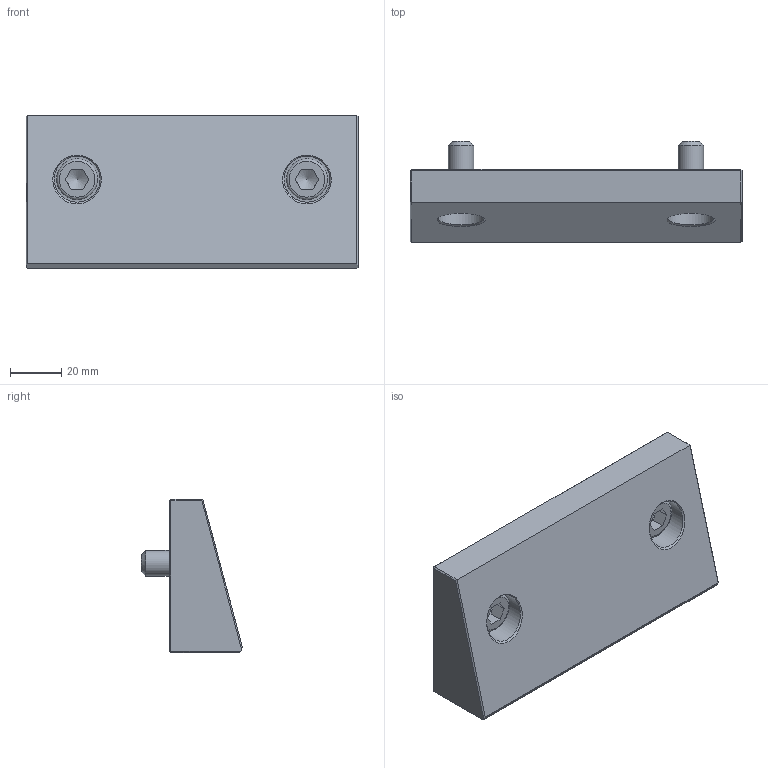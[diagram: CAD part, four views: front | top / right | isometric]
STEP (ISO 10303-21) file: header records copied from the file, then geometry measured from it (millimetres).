
FILE_DESCRIPTION(('STEP AP214'), '1');
FILE_NAME('BB.VS.130.70.030', '', ('UNSPECIFIED'), ('UNSPECIFIED'), 'C3D Converter', 'C3D Toolkit', '');
FILE_SCHEMA(('AUTOMOTIVE_DESIGN { 1 0 10303 214 3 1 1}'));
Length unit declared in the file: millimetre
Products named in the file (1): BB.VS.130.70.030 СБ
Bounding box: 130 x 39.56 x 60 mm (x, y, z)
Volume: 161132.2 mm3; surface area: 27700.4 mm2
Topology: 1 solids, 1 shells, 63 faces, 135 edges, 82 vertices
Faces by surface type: plane 41, cone 8, cylinder 8, torus 4, bspline 2
Full cylindrical faces by diameter (mm): 10 x2, 11 x2, 16 x2, 18 x2
Entity records: 3285 total; most frequent: CARTESIAN_POINT 1511, DIRECTION 241, ORIENTED_EDGE 222, EDGE_CURVE 111, EDGE_LOOP 93, AXIS2_PLACEMENT_3D 86, VERTEX_POINT 80, LINE 69
